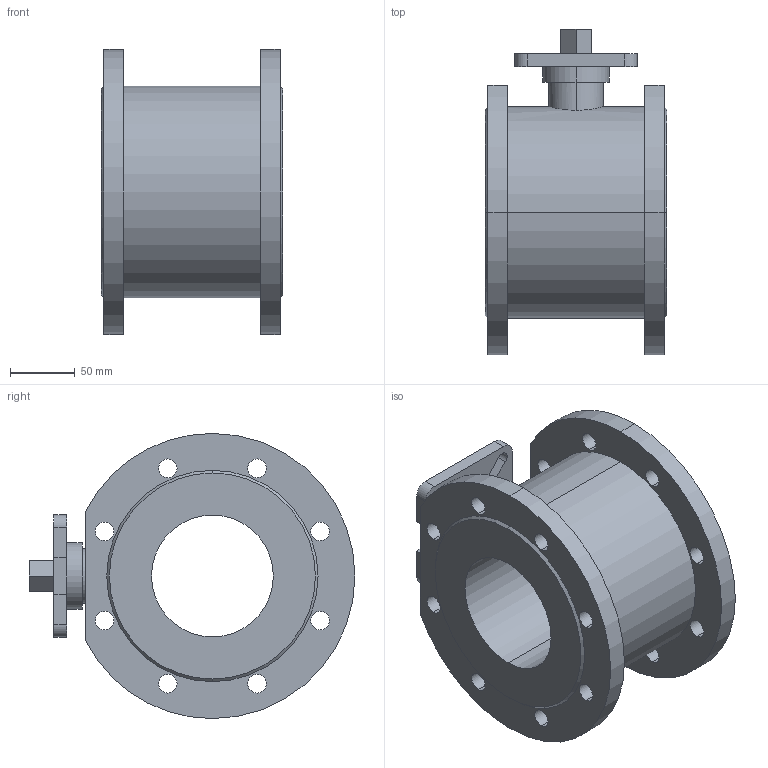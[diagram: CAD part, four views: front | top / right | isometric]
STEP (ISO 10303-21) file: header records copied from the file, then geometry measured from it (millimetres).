
FILE_DESCRIPTION (( 'STEP AP203' ), '1' );
FILE_NAME ('01.622I100016CP.STEP', '2018-10-23T09:08:36', ( '' ), ( '' ), 'SwSTEP 2.0', 'SolidWorks 2014', '' );
FILE_SCHEMA (( 'CONFIG_CONTROL_DESIGN' ));
Length unit declared in the file: millimetre
Products named in the file (1): 01.622I100016CP
Bounding box: 140 x 251.5 x 220 mm (x, y, z)
Volume: 2532276.9 mm3; surface area: 240639.9 mm2
Topology: 1 solids, 1 shells, 102 faces, 276 edges, 184 vertices
Faces by surface type: cylinder 62, plane 36, cone 4
Entity records: 3535 total; most frequent: CARTESIAN_POINT 671, DIRECTION 610, ORIENTED_EDGE 552, EDGE_CURVE 276, AXIS2_PLACEMENT_3D 233, VERTEX_POINT 184, EDGE_LOOP 152, VECTOR 144
